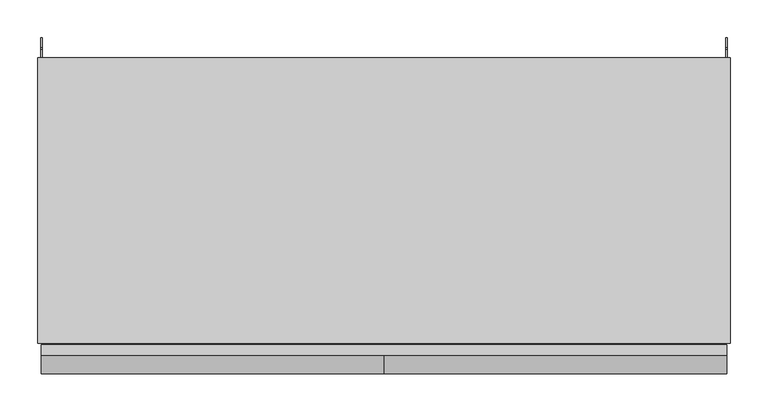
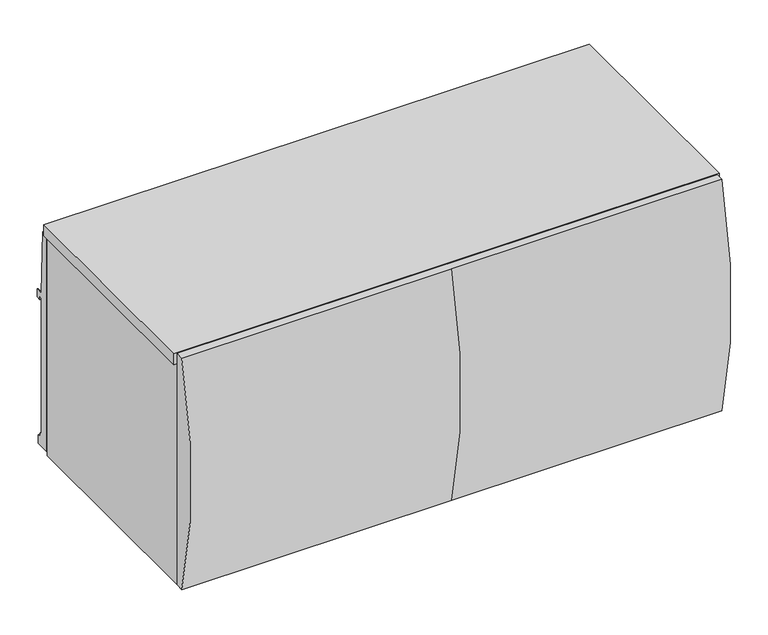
"""IFC4 building model written with IfcOpenShell, lengths in millimetres: furniture geometry, Steelcase - Universal Storage - Over the Case Bin - Radius Front : For Montage - 36W."""

from ifc_helpers import new_model, si_unit, frame, origin, place, context, project, spatial, polyline, circle_curve, outline, extrude, source, transform, mapped, element, save
from ifc_brep_helpers import plane_surface, cylinder_surface, advanced_brep


def furniture_c66ca08e(model_context):
    return source(origin(), model_context, "Body", "SolidModel", [
        advanced_brep(
        [(909.9703, -393.0769518, 1677.2612846), (909.9703, -393.0769518, 1266.8226746), (909.9703, -379.476, 1266.8226746), (909.9703, -379.476, 1677.2612846), (457.2, -393.0769518, 1677.2612846), (457.2, -393.0769518, 1266.8226746), (4.4448587, -393.0769518, 1266.8226746), (4.4448587, -379.476, 1266.8226746), (4.4448587, -379.476, 1677.2612846), (4.4448587, -393.0769518, 1677.2612846)],
        [
            (0, 1, circle_curve(frame((909.9703, 352.6331971, 1472.0419796), z_axis=(1.0, 0.0, 0.0), x_axis=(0.0, 1.0, 0.0)), 773.4329895)),
            (1, 2),
            (2, 3),
            (3, 0),
            (0, 4),
            (4, 5, circle_curve(frame((457.2, 352.6331971, 1472.0419796), z_axis=(1.0, 0.0, 0.0), x_axis=(0.0, 1.0, 0.0)), 773.4329895)),
            (5, 1),
            (5, 6),
            (6, 7),
            (7, 2),
            (7, 8),
            (8, 3),
            (8, 9),
            (9, 4),
            (6, 9, circle_curve(frame((4.4448587, 352.6331971, 1472.0419796), z_axis=(-1.0, 0.0, 0.0), x_axis=(0.0, 1.0, 0.0)), 773.4329895)),
        ],
        [
            plane_surface(frame((909.9703, 1126.0661866, 1472.0419796), z_axis=(1.0, 0.0, 0.0), x_axis=(0.0, 0.0, 1.0))),
            cylinder_surface(frame((457.2, 352.6331971, 1472.0419796), z_axis=(1.0, 0.0, 0.0), x_axis=(0.0, 1.0, 0.0)), 773.4329895),
            plane_surface(frame((909.9703, -393.0769518, 1266.8226746), z_axis=(0.0, 0.0, -1.0), x_axis=(-1.0, 0.0, 0.0))),
            plane_surface(frame((909.9703, -379.476, 1266.8226746), z_axis=(0.0, 1.0, 0.0), x_axis=(-1.0, 0.0, 0.0))),
            plane_surface(frame((909.9703, -379.476, 1677.2612846), z_axis=(0.0, 0.0, 1.0), x_axis=(-1.0, 0.0, 0.0))),
            plane_surface(frame((4.4448587, 1126.0661866, 1472.0419796), z_axis=(-1.0, 0.0, 0.0), x_axis=(0.0, 0.0, -1.0))),
            cylinder_surface(frame((4.4448587, 352.6331971, 1472.0419796), z_axis=(1.0, 0.0, 0.0), x_axis=(0.0, 1.0, 0.0)), 773.4329895),
        ],
        [
            (0, [[1, 2, 3, 4]]),
            (1, [[-1, 5, 6, 7]]),
            (2, [[-2, -7, 8, 9, 10]]),
            (3, [[-3, -10, 11, 12]]),
            (4, [[-4, -12, 13, 14, -5]]),
            (5, [[-13, -11, -9, 15]]),
            (6, [[-15, -8, -6, -14]]),
        ],
    ),
        extrude(outline(polyline([(0.0, 1657.096), (10.1677703, 1657.096), (13.3857995, 1545.8185744), (26.0095997, 1545.8185744), (26.0095997, 1532.1025512), (17.5768, 1532.1025512), (17.5768, 1537.1064608), (13.3349998, 1537.1064608), (13.3349998, 1522.6538546), (14.2747998, 1522.6538546), (14.2747998, 1296.0858527), (17.2466001, 1296.0858527), (17.2466001, 1289.7358043), (22.5806007, 1289.7358043), (22.5806007, 1274.2164027), (0.0, 1274.2164027), (0.0, 1657.096)])), frame((908.8882, 0.0, 0.0), z_axis=(1.0, 0.0, 0.0), x_axis=(0.0, 1.0, 0.0)), (0.0, 0.0, 1.0), 1.905),
        extrude(outline(polyline([(914.4, -377.213238), (0.0, -377.213238), (0.0, 0.0), (914.4, 0.0), (914.4, -377.213238)])), frame((0.0, 0.0, 1657.35), z_axis=(0.0, 0.0, 1.0), x_axis=(1.0, 0.0, 0.0)), (0.0, 0.0, 1.0), 19.05),
        extrude(outline(polyline([(15.875, -377.213238), (5.5118, -377.213238), (5.5118, 0.0), (15.875, 0.0), (15.875, -377.213238)])), frame((0.0, 0.0, 1265.428), z_axis=(0.0, 0.0, 1.0), x_axis=(1.0, 0.0, 0.0)), (0.0, 0.0, 1.0), 391.6679457),
        extrude(outline(polyline([(913.2568665, -377.213238), (898.525, -377.213238), (898.525, 0.0), (913.2568665, 0.0), (913.2568665, -377.213238)])), frame((0.0, 0.0, 1265.428), z_axis=(0.0, 0.0, 1.0), x_axis=(1.0, 0.0, 0.0)), (0.0, 0.0, 1.0), 391.6679457),
        extrude(outline(polyline([(0.0, 1657.096), (10.1677703, 1657.096), (13.3857995, 1545.8185744), (26.0095997, 1545.8185744), (26.0095997, 1532.1025512), (17.5768, 1532.1025512), (17.5768, 1537.1064608), (13.3349998, 1537.1064608), (13.3349998, 1522.6538546), (14.2747998, 1522.6538546), (14.2747998, 1296.0858527), (17.2466001, 1296.0858527), (17.2466001, 1289.7358043), (22.5806007, 1289.7358043), (22.5806007, 1274.2164027), (0.0, 1274.2164027), (0.0, 1657.096)])), frame((3.6068, 0.0, 0.0), z_axis=(1.0, 0.0, 0.0), x_axis=(0.0, 1.0, 0.0)), (0.0, 0.0, 1.0), 1.905),
        extrude(outline(polyline([(-35.4584098, 1372.819257), (-27.0763996, 1372.819257), (-27.0763996, 1360.1191601), (-33.4264117, 1360.1191601), (-33.4264117, 1323.1622589), (-27.0763996, 1323.1622589), (-27.0763996, 1265.428), (-35.4584098, 1265.428), (-35.4584098, 1293.054213), (-46.1263996, 1293.054213), (-46.1263996, 1268.1875622), (-59.9694137, 1268.1875622), (-59.9694137, 1294.8575912), (-332.8542818, 1294.8575912), (-332.8542818, 1268.1875622), (-377.3042823, 1268.1875622), (-377.3042823, 1310.7072052), (-35.4584098, 1310.7072052), (-35.4584098, 1372.819257)])), frame((15.875, 0.0, 0.0), z_axis=(1.0, 0.0, 0.0), x_axis=(0.0, 1.0, 0.0)), (0.0, 0.0, 1.0), 882.65),
    ])


if __name__ == "__main__":
    model = new_model("IFC4")
    model_context = context("Model", 3, world=origin())
    ifc_project = project(units=[si_unit("LENGTHUNIT", "METRE", prefix="MILLI")], contexts=[model_context])
    site = spatial("IfcSite", under=ifc_project)
    building = spatial("IfcBuilding", under=site)
    placement = place(None, origin())
    furniture_shape = furniture_c66ca08e(model_context)
    element("IfcFurniture", 1, ObjectType="Steelcase - Universal Storage - Over the Case Bin - Radius Front : For Montage - 36W", at=placement, inside=building, context=model_context, shape_type="MappedRepresentation", body=[
        mapped(furniture_shape, transform((0.0, 0.0, 0.0), x_axis=(1.0, 0.0, 0.0), y_axis=(0.0, 1.0, 0.0), z_axis=(0.0, 0.0, 1.0))),
    ])
    save(model, "model.ifc")
